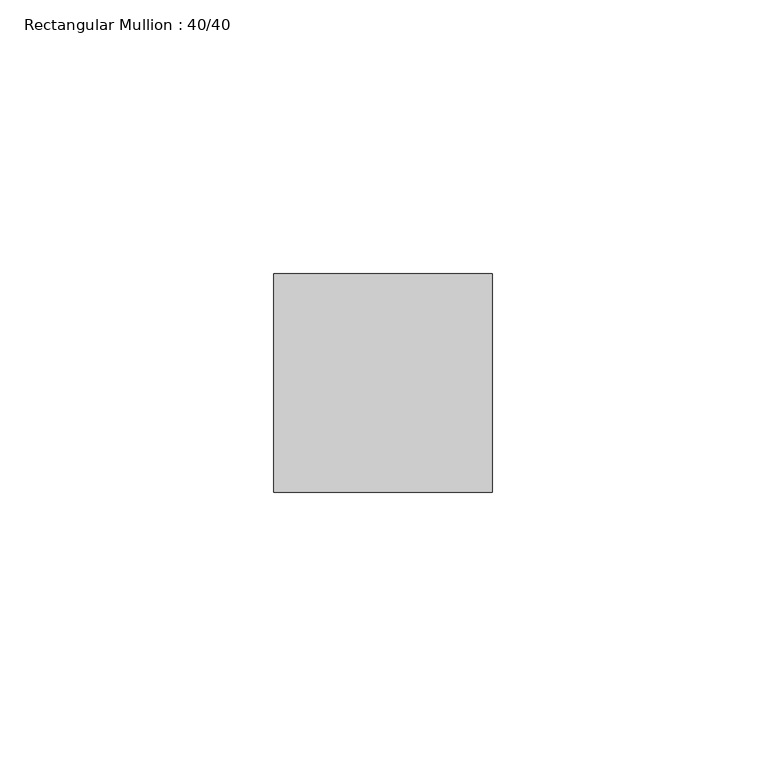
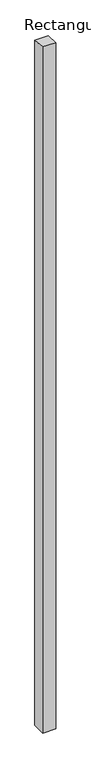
"""IFC4 building model written with IfcOpenShell, lengths in millimetres: member geometry, Rectangular Mullion : 40/40."""

from ifc_helpers import new_model, si_unit, frame, origin, place, context, project, spatial, polyline, outline, extrude, source, transform, mapped, element, save


def rectangular_mullion_40_40_590cdca0(model_context):
    return source(origin(), model_context, "Body", "SweptSolid", [
        extrude(outline(polyline([(-20.0, 1.3985362), (20.0, -1.3985362), (20.0, -2180.3111283), (-20.0, -2180.3111283), (-20.0, 1.3985362)])), frame((-20.0, 0.0, 0.0), z_axis=(1.0, 0.0, 0.0), x_axis=(0.0, 1.0, 0.0)), (0.0, 0.0, 1.0), 40.0),
    ])


if __name__ == "__main__":
    model = new_model("IFC4")
    model_context = context("Model", 3, world=origin())
    ifc_project = project(units=[si_unit("LENGTHUNIT", "METRE", prefix="MILLI")], contexts=[model_context])
    site = spatial("IfcSite", under=ifc_project)
    building = spatial("IfcBuilding", under=site)
    placement = place(None, origin())
    rectangular_mullion_40_40_shape = rectangular_mullion_40_40_590cdca0(model_context)
    element("IfcMember", 1, ObjectType="Rectangular Mullion : 40/40", at=placement, inside=building, context=model_context, shape_type="MappedRepresentation", body=[
        mapped(rectangular_mullion_40_40_shape, transform((0.0, 0.0, 0.0), x_axis=(1.0, 0.0, 0.0), y_axis=(0.0, 1.0, 0.0), z_axis=(0.0, 0.0, 1.0))),
    ])
    save(model, "model.ifc")
